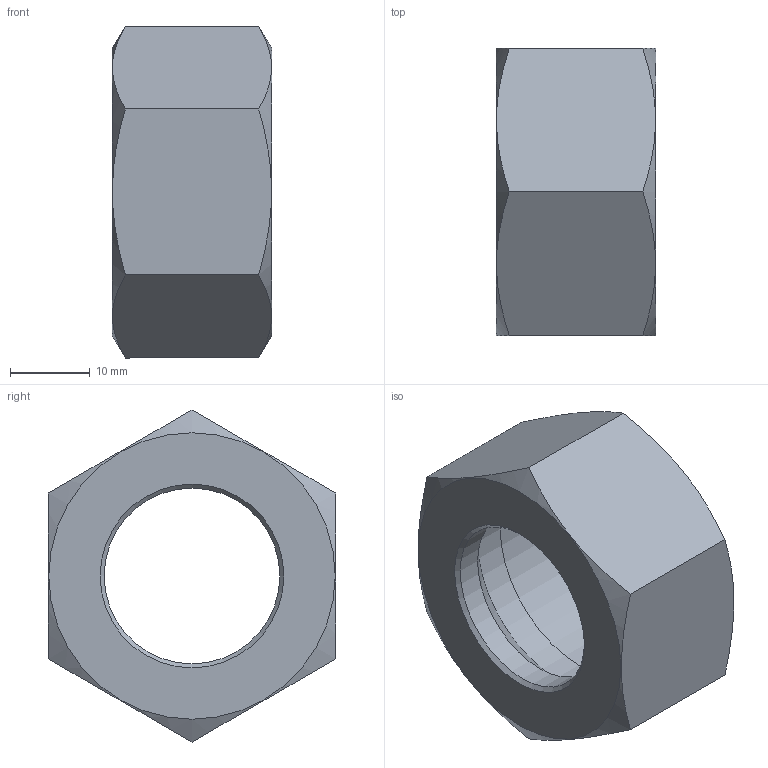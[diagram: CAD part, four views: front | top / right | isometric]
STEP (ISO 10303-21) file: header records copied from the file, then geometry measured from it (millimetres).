
FILE_DESCRIPTION( ( 'Unknown' ), '1' );
FILE_NAME( 'C:/Users/p.nanko/Desktop/3D SR/M22L.stp', 'Unknown', ( 'Peter Nanko' ), ( 'Armaturen Arndt' ), 'PSStep 14.0', 'Solid Edge ST4', ' ' );
FILE_SCHEMA( ( 'AUTOMOTIVE_DESIGN { 1 0 10303 214 1 1 1 1 }' ) );
Length unit declared in the file: millimetre
Products named in the file (1): 1
Bounding box: 20 x 36 x 41.57 mm (x, y, z)
Volume: 11208.2 mm3; surface area: 5294.2 mm2
Topology: 1 solids, 1 shells, 16 faces, 38 edges, 24 vertices
Faces by surface type: plane 8, cone 5, cylinder 3
Full cylindrical faces by diameter (mm): 22 x1, 27.835 x2
Entity records: 672 total; most frequent: CARTESIAN_POINT 221, DIRECTION 58, ORIENTED_EDGE 54, EDGE_CURVE 27, AXIS2_PLACEMENT_3D 26, EDGE_LOOP 26, VERTEX_POINT 21, FACE_OUTER_BOUND 19
